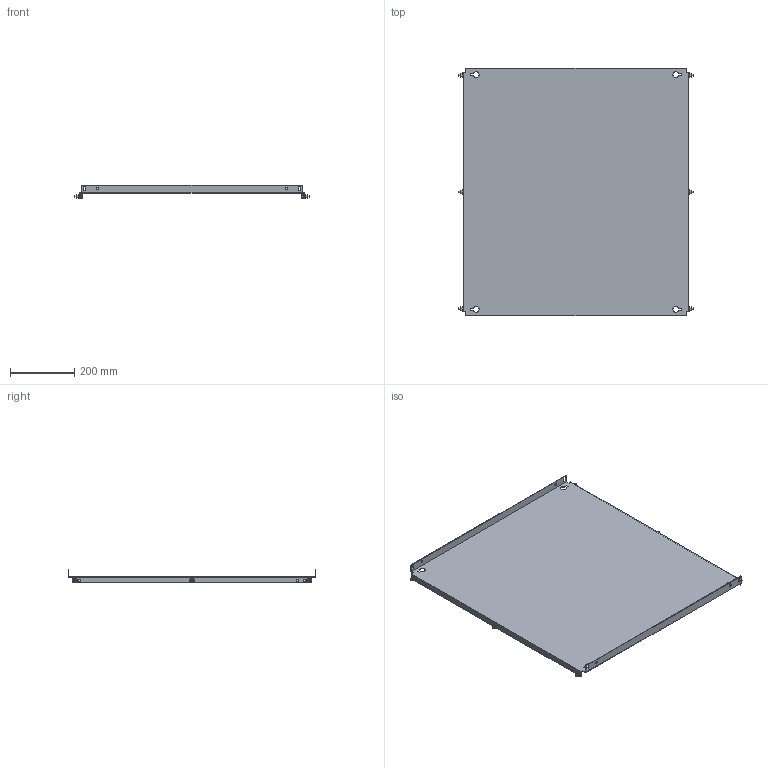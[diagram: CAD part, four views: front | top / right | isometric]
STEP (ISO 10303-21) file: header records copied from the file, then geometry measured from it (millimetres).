
FILE_DESCRIPTION(('Open CASCADE Model'),'2;1');
FILE_NAME('Open CASCADE Shape Model','2025-02-20T13:24:48',('Author'),( 'Open CASCADE'),'Open CASCADE STEP processor 7.8','Open CASCADE 7.8' ,'Unknown');
FILE_SCHEMA(('AUTOMOTIVE_DESIGN { 1 0 10303 214 1 1 1 1 }'));
Length unit declared in the file: millimetre
Products named in the file (4): Compound1; Solid1; Solid2; Solid3
Assembly tree (13 placements, depth 2):
  Compound1
    Solid1
    Solid2  x6
    Solid3  x6
Bounding box: 728 x 769 x 43 mm (x, y, z)
Volume: 1197180.6 mm3; surface area: 1203573.3 mm2
Topology: 13 solids, 13 shells, 422 faces, 1010 edges, 620 vertices
Faces by surface type: plane 192, cone 102, bspline 72, cylinder 38, torus 18
Full cylindrical faces by diameter (mm): 5 x6, 6 x12, 7 x16
Entity records: 5048 total; most frequent: CARTESIAN_POINT 1397, ORIENTED_EDGE 770, DIRECTION 664, EDGE_CURVE 385, VERTEX_POINT 250, AXIS2_PLACEMENT_3D 224, LINE 216, VECTOR 216
